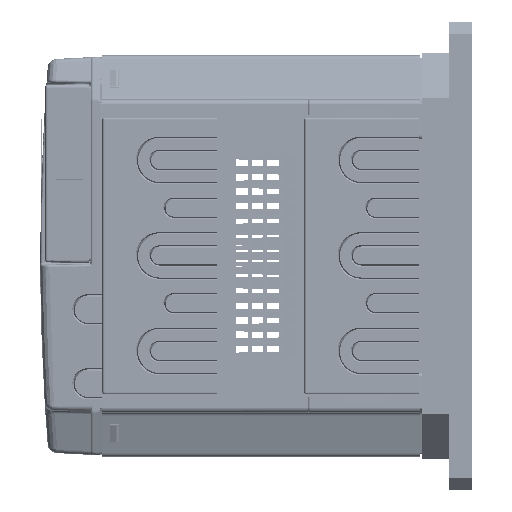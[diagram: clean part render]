
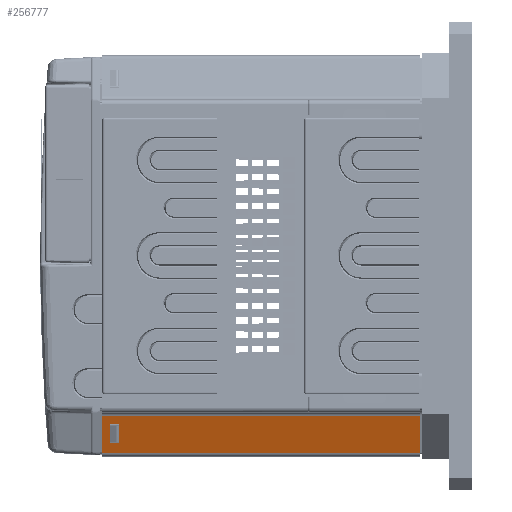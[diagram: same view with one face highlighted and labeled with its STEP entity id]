
A CAD part, left-side view. The second image highlights one B-rep face of the part: STEP entity #256777.
In plain terms, the highlighted planar face has unit normal (-0.944, 0, -0.332) as drawn and (-0.331, 0, 0.943) by its records, which use the part's own axes.
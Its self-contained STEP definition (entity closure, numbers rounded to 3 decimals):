
#12014 = CARTESIAN_POINT ( 'NONE',  ( -82.663, 1., -17.53 ) ) ;
#12020 = CARTESIAN_POINT ( 'NONE',  ( -66.837, 1., -11.97 ) ) ;
#12636 = DIRECTION ( 'NONE',  ( 0.943, 0., 0.331 ) ) ;
#12640 = VECTOR ( 'NONE', #12636, 1000. ) ;
#12644 = CARTESIAN_POINT ( 'NONE',  ( -183.188, 1., -52.85 ) ) ;
#12646 = LINE ( 'NONE', #12644, #12640 ) ;
#256485 = ORIENTED_EDGE ( 'NONE', *, *, #256505, .F. ) ;
#256505 = EDGE_CURVE ( 'NONE', #256517, #256856, #427792, .T. ) ;
#256517 = VERTEX_POINT ( 'NONE', #428023 ) ;
#256553 = ORIENTED_EDGE ( 'NONE', *, *, #257120, .F. ) ;
#256576 = VERTEX_POINT ( 'NONE', #428162 ) ;
#256777 = ADVANCED_FACE ( 'NONE', ( #429545, #429526 ), #429521, .F. ) ;
#256798 = EDGE_LOOP ( 'NONE', ( #256824, #256485, #256553, #257157 ) ) ;
#256824 = ORIENTED_EDGE ( 'NONE', *, *, #256843, .F. ) ;
#256843 = EDGE_CURVE ( 'NONE', #256856, #256868, #429621, .T. ) ;
#256856 = VERTEX_POINT ( 'NONE', #430035 ) ;
#256868 = VERTEX_POINT ( 'NONE', #429981 ) ;
#256875 = EDGE_CURVE ( 'NONE', #256880, #256893, #429964, .T. ) ;
#256880 = VERTEX_POINT ( 'NONE', #429946 ) ;
#256893 = VERTEX_POINT ( 'NONE', #429909 ) ;
#256927 = ORIENTED_EDGE ( 'NONE', *, *, #256950, .T. ) ;
#256950 = EDGE_CURVE ( 'NONE', #256893, #336664, #430100, .T. ) ;
#256970 = ORIENTED_EDGE ( 'NONE', *, *, #336998, .T. ) ;
#256999 = ORIENTED_EDGE ( 'NONE', *, *, #257010, .T. ) ;
#257010 = EDGE_CURVE ( 'NONE', #336659, #256880, #430613, .T. ) ;
#257120 = EDGE_CURVE ( 'NONE', #256576, #256517, #430703, .T. ) ;
#257157 = ORIENTED_EDGE ( 'NONE', *, *, #257166, .F. ) ;
#257166 = EDGE_CURVE ( 'NONE', #256868, #256576, #431605, .T. ) ;
#257170 = EDGE_LOOP ( 'NONE', ( #257198, #256927, #256970, #256999 ) ) ;
#257198 = ORIENTED_EDGE ( 'NONE', *, *, #256875, .T. ) ;
#336659 = VERTEX_POINT ( 'NONE', #12020 ) ;
#336664 = VERTEX_POINT ( 'NONE', #12014 ) ;
#336998 = EDGE_CURVE ( 'NONE', #336664, #336659, #12646, .T. ) ;
#427774 = DIRECTION ( 'NONE',  ( 0., -1., 0. ) ) ;
#427778 = VECTOR ( 'NONE', #427774, 1000. ) ;
#427782 = CARTESIAN_POINT ( 'NONE',  ( -78.5, 130.8, -16.068 ) ) ;
#427792 = LINE ( 'NONE', #427782, #427778 ) ;
#428023 = CARTESIAN_POINT ( 'NONE',  ( -78.5, 130.8, -16.068 ) ) ;
#428162 = CARTESIAN_POINT ( 'NONE',  ( -70.5, 130.8, -13.257 ) ) ;
#429442 = DIRECTION ( 'NONE',  ( -0.943, 0., -0.331 ) ) ;
#429446 = DIRECTION ( 'NONE',  ( 0.331, 0., -0.943 ) ) ;
#429449 = CARTESIAN_POINT ( 'NONE',  ( -65.5, 160., -11.5 ) ) ;
#429454 = AXIS2_PLACEMENT_3D ( 'NONE', #429449, #429446, #429442 ) ;
#429521 = PLANE ( 'NONE',  #429454 ) ;
#429526 = FACE_OUTER_BOUND ( 'NONE', #257170, .T. ) ;
#429545 = FACE_BOUND ( 'NONE', #256798, .T. ) ;
#429621 = LINE ( 'NONE', #429745, #429740 ) ;
#429737 = DIRECTION ( 'NONE',  ( 0.943, 0., 0.331 ) ) ;
#429740 = VECTOR ( 'NONE', #429737, 1000. ) ;
#429745 = CARTESIAN_POINT ( 'NONE',  ( -179.183, 127., -51.443 ) ) ;
#429909 = CARTESIAN_POINT ( 'NONE',  ( -82.663, 134., -17.53 ) ) ;
#429946 = CARTESIAN_POINT ( 'NONE',  ( -66.837, 134., -11.97 ) ) ;
#429951 = DIRECTION ( 'NONE',  ( -0.943, 0., -0.331 ) ) ;
#429955 = VECTOR ( 'NONE', #429951, 1000. ) ;
#429960 = CARTESIAN_POINT ( 'NONE',  ( -184.078, 134., -53.163 ) ) ;
#429964 = LINE ( 'NONE', #429960, #429955 ) ;
#429981 = CARTESIAN_POINT ( 'NONE',  ( -70.5, 127., -13.257 ) ) ;
#430035 = CARTESIAN_POINT ( 'NONE',  ( -78.5, 127., -16.068 ) ) ;
#430089 = DIRECTION ( 'NONE',  ( 0., -1., 0. ) ) ;
#430092 = VECTOR ( 'NONE', #430089, 1000. ) ;
#430096 = CARTESIAN_POINT ( 'NONE',  ( -82.663, 1., -17.53 ) ) ;
#430100 = LINE ( 'NONE', #430096, #430092 ) ;
#430601 = DIRECTION ( 'NONE',  ( 0., 1., 0. ) ) ;
#430605 = VECTOR ( 'NONE', #430601, 1000. ) ;
#430611 = CARTESIAN_POINT ( 'NONE',  ( -66.837, 134., -11.97 ) ) ;
#430613 = LINE ( 'NONE', #430611, #430605 ) ;
#430690 = DIRECTION ( 'NONE',  ( -0.943, 0., -0.331 ) ) ;
#430695 = VECTOR ( 'NONE', #430690, 1000. ) ;
#430699 = CARTESIAN_POINT ( 'NONE',  ( -179.183, 130.8, -51.443 ) ) ;
#430703 = LINE ( 'NONE', #430699, #430695 ) ;
#431596 = DIRECTION ( 'NONE',  ( 0., 1., 0. ) ) ;
#431599 = VECTOR ( 'NONE', #431596, 1000. ) ;
#431603 = CARTESIAN_POINT ( 'NONE',  ( -70.5, 130.8, -13.257 ) ) ;
#431605 = LINE ( 'NONE', #431603, #431599 ) ;
